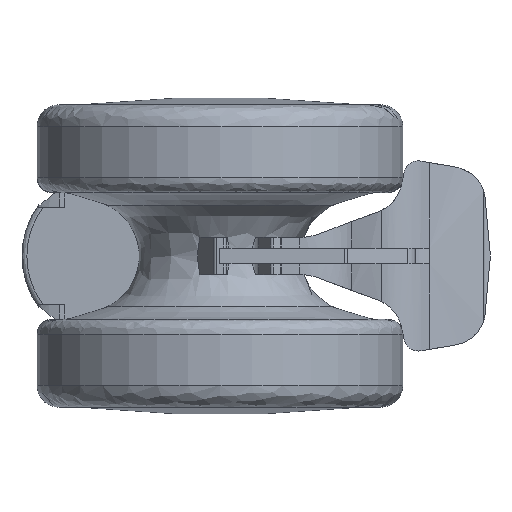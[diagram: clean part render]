
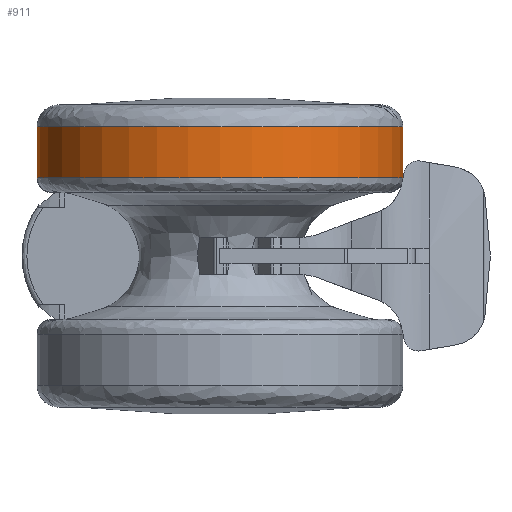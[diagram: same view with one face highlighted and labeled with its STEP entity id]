
A CAD part, front view. The second image highlights one B-rep face of the part: STEP entity #911.
In plain terms, the highlighted cylindrical face has radius 37.5 mm (diameter 75 mm), a partial arc.
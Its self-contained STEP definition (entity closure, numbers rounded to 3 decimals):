
#474 = CARTESIAN_POINT ( 'NONE',  ( 37.5, 0., 21.25 ) ) ;
#749 = DIRECTION ( 'NONE',  ( 0., 0., -1. ) ) ;
#756 = DIRECTION ( 'NONE',  ( 1., 0., 0. ) ) ;
#911 = ADVANCED_FACE ( 'NONE', ( #3600 ), #4833, .T. ) ;
#1031 = EDGE_CURVE ( 'NONE', #3399, #1462, #5458, .T. ) ;
#1155 = EDGE_CURVE ( 'NONE', #3824, #4763, #1208, .T. ) ;
#1208 = LINE ( 'NONE', #3384, #6988 ) ;
#1462 = VERTEX_POINT ( 'NONE', #5955 ) ;
#1850 = EDGE_LOOP ( 'NONE', ( #1863, #3348, #6141, #3875 ) ) ;
#1863 = ORIENTED_EDGE ( 'NONE', *, *, #1031, .F. ) ;
#2082 = CARTESIAN_POINT ( 'NONE',  ( 0., 0., 21.25 ) ) ;
#2411 = AXIS2_PLACEMENT_3D ( 'NONE', #3533, #5743, #756 ) ;
#2455 = AXIS2_PLACEMENT_3D ( 'NONE', #2780, #2543, #6541 ) ;
#2464 = CARTESIAN_POINT ( 'NONE',  ( -37.5, 0., 26.5 ) ) ;
#2543 = DIRECTION ( 'NONE',  ( 0., 0., 1. ) ) ;
#2771 = DIRECTION ( 'NONE',  ( 0., 0., -1. ) ) ;
#2780 = CARTESIAN_POINT ( 'NONE',  ( 0., 0., 16. ) ) ;
#3348 = ORIENTED_EDGE ( 'NONE', *, *, #6736, .F. ) ;
#3384 = CARTESIAN_POINT ( 'NONE',  ( -37.5, 0., 21.25 ) ) ;
#3399 = VERTEX_POINT ( 'NONE', #4479 ) ;
#3533 = CARTESIAN_POINT ( 'NONE',  ( 0., 0., 26.5 ) ) ;
#3600 = FACE_OUTER_BOUND ( 'NONE', #1850, .T. ) ;
#3824 = VERTEX_POINT ( 'NONE', #2464 ) ;
#3875 = ORIENTED_EDGE ( 'NONE', *, *, #5381, .T. ) ;
#4032 = CIRCLE ( 'NONE', #2411, 37.5 ) ;
#4296 = DIRECTION ( 'NONE',  ( 0., 0., -1. ) ) ;
#4479 = CARTESIAN_POINT ( 'NONE',  ( 37.5, 0., 26.5 ) ) ;
#4688 = DIRECTION ( 'NONE',  ( -1., 0., 0. ) ) ;
#4762 = CIRCLE ( 'NONE', #2455, 37.5 ) ;
#4763 = VERTEX_POINT ( 'NONE', #4929 ) ;
#4788 = VECTOR ( 'NONE', #2771, 1000. ) ;
#4833 = CYLINDRICAL_SURFACE ( 'NONE', #6628, 37.5 ) ;
#4929 = CARTESIAN_POINT ( 'NONE',  ( -37.5, 0., 16. ) ) ;
#5381 = EDGE_CURVE ( 'NONE', #4763, #1462, #4762, .T. ) ;
#5458 = LINE ( 'NONE', #474, #4788 ) ;
#5743 = DIRECTION ( 'NONE',  ( 0., 0., 1. ) ) ;
#5955 = CARTESIAN_POINT ( 'NONE',  ( 37.5, 0., 16. ) ) ;
#6141 = ORIENTED_EDGE ( 'NONE', *, *, #1155, .T. ) ;
#6541 = DIRECTION ( 'NONE',  ( -1., 0., 0. ) ) ;
#6628 = AXIS2_PLACEMENT_3D ( 'NONE', #2082, #4296, #4688 ) ;
#6736 = EDGE_CURVE ( 'NONE', #3824, #3399, #4032, .T. ) ;
#6988 = VECTOR ( 'NONE', #749, 1000. ) ;
